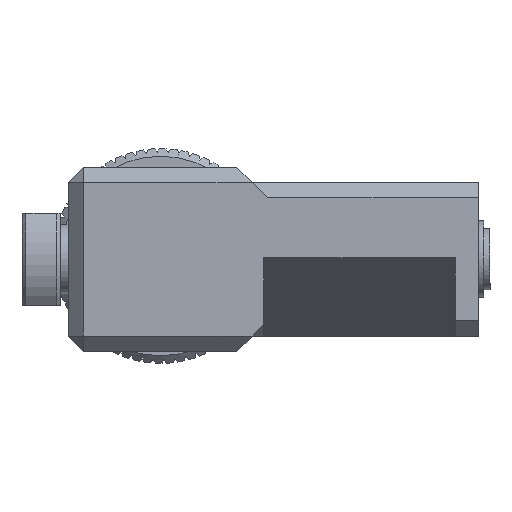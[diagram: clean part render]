
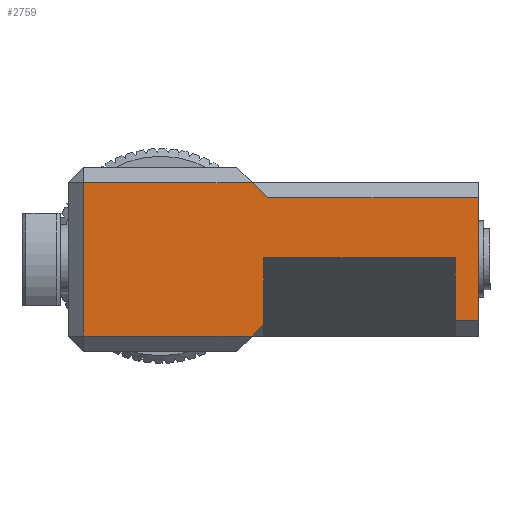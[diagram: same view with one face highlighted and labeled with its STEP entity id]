
A CAD part, front view. The second image highlights one B-rep face of the part: STEP entity #2759.
In plain terms, the highlighted planar face has unit normal (0, -1, 0).
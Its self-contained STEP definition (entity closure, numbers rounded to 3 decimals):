
#6 = ORIENTED_EDGE ( 'NONE', *, *, #5927, .F. ) ;
#254 = LINE ( 'NONE', #5362, #1336 ) ;
#296 = DIRECTION ( 'NONE',  ( 1., 0., 0. ) ) ;
#433 = PLANE ( 'NONE',  #7507 ) ;
#441 = VERTEX_POINT ( 'NONE', #7006 ) ;
#470 = DIRECTION ( 'NONE',  ( 0., 0., -1. ) ) ;
#514 = VERTEX_POINT ( 'NONE', #7920 ) ;
#531 = CARTESIAN_POINT ( 'NONE',  ( -0.485, -63.648, 412.782 ) ) ;
#602 = LINE ( 'NONE', #7004, #2521 ) ;
#608 = VERTEX_POINT ( 'NONE', #5049 ) ;
#662 = ORIENTED_EDGE ( 'NONE', *, *, #8220, .F. ) ;
#786 = VECTOR ( 'NONE', #2571, 1000. ) ;
#1025 = LINE ( 'NONE', #9011, #3718 ) ;
#1143 = EDGE_CURVE ( 'NONE', #6634, #5519, #254, .T. ) ;
#1246 = DIRECTION ( 'NONE',  ( -1., 0., 0. ) ) ;
#1273 = LINE ( 'NONE', #4091, #1329 ) ;
#1329 = VECTOR ( 'NONE', #7670, 1000. ) ;
#1336 = VECTOR ( 'NONE', #5405, 1000. ) ;
#1446 = LINE ( 'NONE', #3530, #8289 ) ;
#1494 = ORIENTED_EDGE ( 'NONE', *, *, #4296, .F. ) ;
#1755 = LINE ( 'NONE', #6146, #8767 ) ;
#1818 = CARTESIAN_POINT ( 'NONE',  ( -12.485, -63.648, 422.782 ) ) ;
#1876 = VERTEX_POINT ( 'NONE', #2503 ) ;
#1906 = CARTESIAN_POINT ( 'NONE',  ( 1.015, -63.648, 422.782 ) ) ;
#2007 = CARTESIAN_POINT ( 'NONE',  ( -12.485, -63.648, 422.98 ) ) ;
#2313 = VECTOR ( 'NONE', #296, 1000. ) ;
#2323 = VERTEX_POINT ( 'NONE', #4074 ) ;
#2421 = VERTEX_POINT ( 'NONE', #3707 ) ;
#2503 = CARTESIAN_POINT ( 'NONE',  ( -0.485, -63.648, 432.782 ) ) ;
#2521 = VECTOR ( 'NONE', #3412, 1000. ) ;
#2571 = DIRECTION ( 'NONE',  ( -0.707, 0., -0.707 ) ) ;
#2638 = ORIENTED_EDGE ( 'NONE', *, *, #1143, .F. ) ;
#2653 = EDGE_CURVE ( 'NONE', #4621, #1876, #3909, .T. ) ;
#2721 = FACE_OUTER_BOUND ( 'NONE', #3292, .T. ) ;
#2759 = ADVANCED_FACE ( 'NONE', ( #2721 ), #433, .F. ) ;
#2850 = ORIENTED_EDGE ( 'NONE', *, *, #3894, .F. ) ;
#3026 = VERTEX_POINT ( 'NONE', #8109 ) ;
#3228 = LINE ( 'NONE', #1906, #9348 ) ;
#3277 = CARTESIAN_POINT ( 'NONE',  ( -22.485, -63.648, 432.782 ) ) ;
#3292 = EDGE_LOOP ( 'NONE', ( #7968, #2850, #4077, #6, #5706, #4015, #2638, #8389, #7456, #1494, #662 ) ) ;
#3412 = DIRECTION ( 'NONE',  ( 0., 0., 1. ) ) ;
#3449 = VERTEX_POINT ( 'NONE', #6883 ) ;
#3530 = CARTESIAN_POINT ( 'NONE',  ( 29.015, -63.648, 422.782 ) ) ;
#3637 = LINE ( 'NONE', #4316, #4232 ) ;
#3707 = CARTESIAN_POINT ( 'NONE',  ( 26.015, -63.648, 414.782 ) ) ;
#3718 = VECTOR ( 'NONE', #6700, 1000. ) ;
#3894 = EDGE_CURVE ( 'NONE', #608, #3449, #1446, .T. ) ;
#3909 = LINE ( 'NONE', #6828, #2313 ) ;
#4015 = ORIENTED_EDGE ( 'NONE', *, *, #7213, .F. ) ;
#4074 = CARTESIAN_POINT ( 'NONE',  ( 1.015, -63.648, 422.98 ) ) ;
#4077 = ORIENTED_EDGE ( 'NONE', *, *, #8272, .F. ) ;
#4091 = CARTESIAN_POINT ( 'NONE',  ( -22.485, -63.648, 422.782 ) ) ;
#4232 = VECTOR ( 'NONE', #7961, 1000. ) ;
#4296 = EDGE_CURVE ( 'NONE', #3026, #2323, #9288, .T. ) ;
#4316 = CARTESIAN_POINT ( 'NONE',  ( -12.485, -63.648, 430.782 ) ) ;
#4566 = EDGE_CURVE ( 'NONE', #3449, #2421, #1755, .T. ) ;
#4621 = VERTEX_POINT ( 'NONE', #3277 ) ;
#4666 = DIRECTION ( 'NONE',  ( -1., 0., 0. ) ) ;
#4923 = CARTESIAN_POINT ( 'NONE',  ( -22.485, -63.648, 412.782 ) ) ;
#5025 = DIRECTION ( 'NONE',  ( -1., 0., 0. ) ) ;
#5049 = CARTESIAN_POINT ( 'NONE',  ( 29.015, -63.648, 430.782 ) ) ;
#5362 = CARTESIAN_POINT ( 'NONE',  ( -12.485, -63.648, 412.782 ) ) ;
#5405 = DIRECTION ( 'NONE',  ( -1., 0., 0. ) ) ;
#5519 = VERTEX_POINT ( 'NONE', #4923 ) ;
#5554 = VECTOR ( 'NONE', #5025, 1000. ) ;
#5706 = ORIENTED_EDGE ( 'NONE', *, *, #2653, .F. ) ;
#5927 = EDGE_CURVE ( 'NONE', #1876, #514, #1025, .T. ) ;
#6146 = CARTESIAN_POINT ( 'NONE',  ( -12.485, -63.648, 414.782 ) ) ;
#6634 = VERTEX_POINT ( 'NONE', #531 ) ;
#6700 = DIRECTION ( 'NONE',  ( 0.707, 0., -0.707 ) ) ;
#6828 = CARTESIAN_POINT ( 'NONE',  ( -12.485, -63.648, 432.782 ) ) ;
#6883 = CARTESIAN_POINT ( 'NONE',  ( 29.015, -63.648, 414.782 ) ) ;
#7004 = CARTESIAN_POINT ( 'NONE',  ( 26.015, -63.648, 422.782 ) ) ;
#7006 = CARTESIAN_POINT ( 'NONE',  ( 1.015, -63.648, 414.282 ) ) ;
#7213 = EDGE_CURVE ( 'NONE', #5519, #4621, #1273, .T. ) ;
#7274 = DIRECTION ( 'NONE',  ( 0., 0., -1. ) ) ;
#7456 = ORIENTED_EDGE ( 'NONE', *, *, #8747, .F. ) ;
#7507 = AXIS2_PLACEMENT_3D ( 'NONE', #1818, #7788, #1246 ) ;
#7637 = LINE ( 'NONE', #9131, #786 ) ;
#7670 = DIRECTION ( 'NONE',  ( 0., 0., 1. ) ) ;
#7788 = DIRECTION ( 'NONE',  ( 0., 1., 0. ) ) ;
#7920 = CARTESIAN_POINT ( 'NONE',  ( 1.515, -63.648, 430.782 ) ) ;
#7961 = DIRECTION ( 'NONE',  ( 1., 0., 0. ) ) ;
#7968 = ORIENTED_EDGE ( 'NONE', *, *, #4566, .F. ) ;
#8109 = CARTESIAN_POINT ( 'NONE',  ( 26.015, -63.648, 422.98 ) ) ;
#8220 = EDGE_CURVE ( 'NONE', #2421, #3026, #602, .T. ) ;
#8272 = EDGE_CURVE ( 'NONE', #514, #608, #3637, .T. ) ;
#8289 = VECTOR ( 'NONE', #7274, 1000. ) ;
#8389 = ORIENTED_EDGE ( 'NONE', *, *, #8864, .F. ) ;
#8747 = EDGE_CURVE ( 'NONE', #2323, #441, #3228, .T. ) ;
#8767 = VECTOR ( 'NONE', #4666, 1000. ) ;
#8864 = EDGE_CURVE ( 'NONE', #441, #6634, #7637, .T. ) ;
#9011 = CARTESIAN_POINT ( 'NONE',  ( -0.485, -63.648, 432.782 ) ) ;
#9131 = CARTESIAN_POINT ( 'NONE',  ( 1.015, -63.648, 414.282 ) ) ;
#9288 = LINE ( 'NONE', #2007, #5554 ) ;
#9348 = VECTOR ( 'NONE', #470, 1000. ) ;
